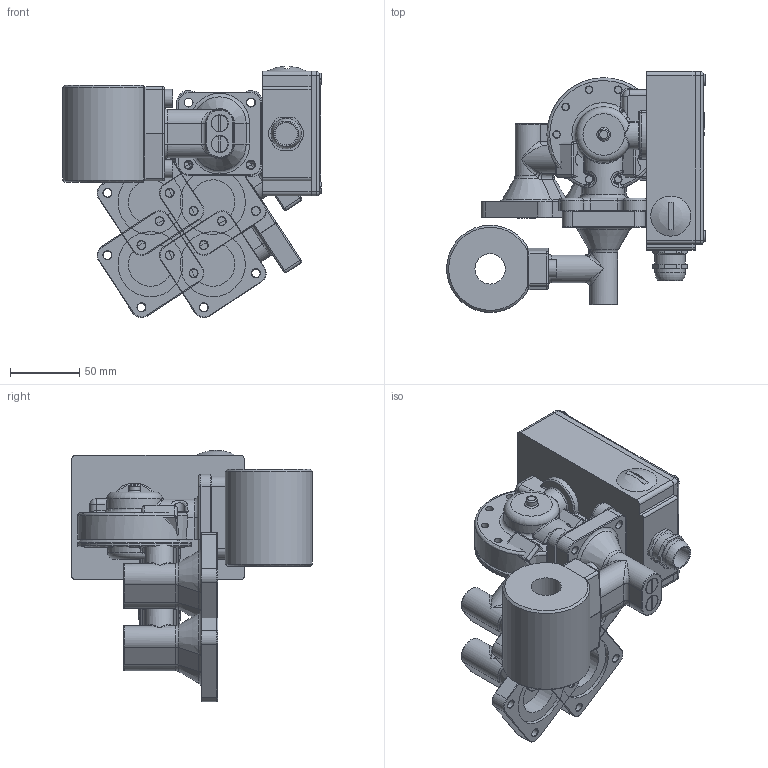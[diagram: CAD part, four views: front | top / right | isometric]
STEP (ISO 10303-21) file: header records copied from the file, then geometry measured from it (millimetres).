
FILE_DESCRIPTION(/* description */ ('Alibre Inc.'),/* implementation_level */ '2;1');
FILE_NAME(/* name */ 'export0',/* time_stamp */ '2012-10-15T13:28:45+02:00',/* author */ (''),/* organization */ (''),/* preprocessor_version */ 'ST-DEVELOPER v14',/* originating_system */ 'Alibre',/* authorisation */ '');
FILE_SCHEMA (('CONFIG_CONTROL_DESIGN'));
Length unit declared in the file: centimetre
Products named in the file (13): ID_1; ID_2; ID_3; ID_4; ID_5; ID_6; ID_7; ID_8; ID_9
Bounding box: 187 x 174.05 x 181.66 mm (x, y, z)
Volume: 1026260.7 mm3; surface area: 295830.1 mm2
Topology: 29 solids, 29 shells, 1550 faces, 3618 edges, 2201 vertices
Faces by surface type: plane 576, cylinder 455, bspline 208, torus 177, cone 129, sphere 5
Full cylindrical faces by diameter (mm): 5 x23, 5.5 x18, 6 x20, 6.038 x2, 6.5 x4, 7.5 x1, 8 x18, 8.3 x9, 8.5 x10, 8.7 x2, 11.75 x2, 11.85 x1, 12 x10, 13 x2, 14 x10, 16 x1, 17.966 x1, 22 x3, 22.5 x4, 31 x1, 32 x5, 47 x5, 56 x2
Entity records: 38502 total; most frequent: CARTESIAN_POINT 15643, ORIENTED_EDGE 4394, DIRECTION 3730, EDGE_CURVE 2197, AXIS2_PLACEMENT_3D 1563, VERTEX_POINT 1453, EDGE_LOOP 1292, FACE_BOUND 1292
